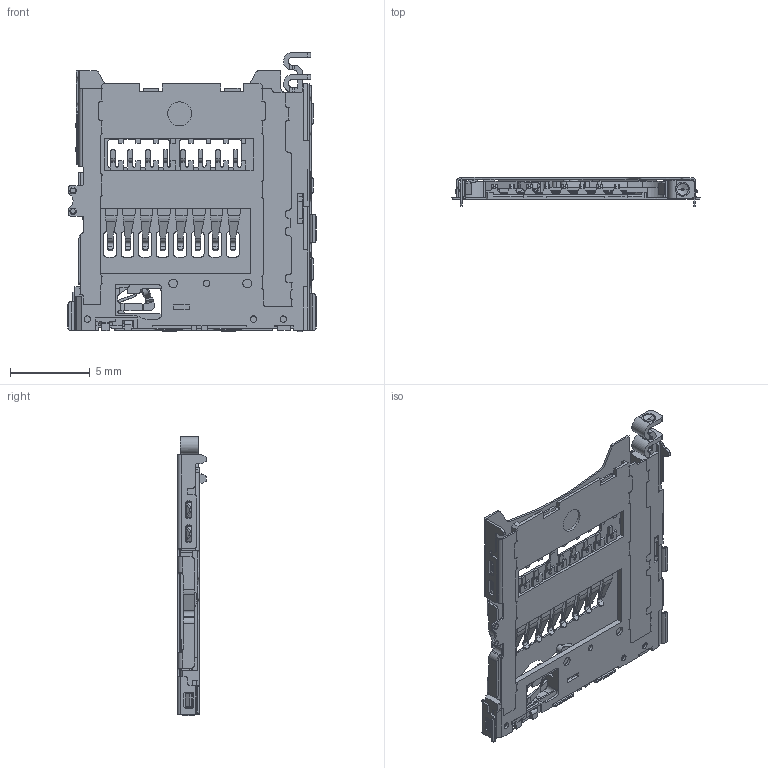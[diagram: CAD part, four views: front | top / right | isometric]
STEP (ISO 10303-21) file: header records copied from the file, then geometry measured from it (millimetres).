
FILE_DESCRIPTION((''),'2;1');
FILE_NAME('1060807GR001_T-FLA0001_ASM','2023-04-24T09:07:25',('Administrator'),(''),'CREO PARAMETRIC BY PTC INC, 2020053','CREO PARAMETRIC BY PTC INC, 2020053','');
FILE_SCHEMA(('CONFIG_CONTROL_DESIGN','SHAPE_APPEARANCE_LAYERS_GROUPS'));
Products named in the file (3): 1060807GR001_1_1; 1060807GR001TFCONN_ASM_1_ASM; 1060807GR001_T-FLA0001_ASM
Assembly tree (2 placements, depth 3):
  1060807GR001_T-FLA0001_ASM
    1060807GR001TFCONN_ASM_1_ASM
      1060807GR001_1_1
Bounding box: 15.57 x 1.82 x 17.52 mm (x, y, z)
Volume: 65 mm3; surface area: 1183.9 mm2
Topology: 1 solids, 5 shells, 2425 faces, 7017 edges, 4546 vertices
Faces by surface type: plane 1401, cylinder 922, cone 39, bspline 28, torus 28, sphere 7
Entity records: 94222 total; most frequent: CARTESIAN_POINT 16207, ORIENTED_EDGE 14002, DIRECTION 13400, EDGE_CURVE 7011, VECTOR 4750, LINE 4750, VERTEX_POINT 4546, AXIS2_PLACEMENT_3D 4325
